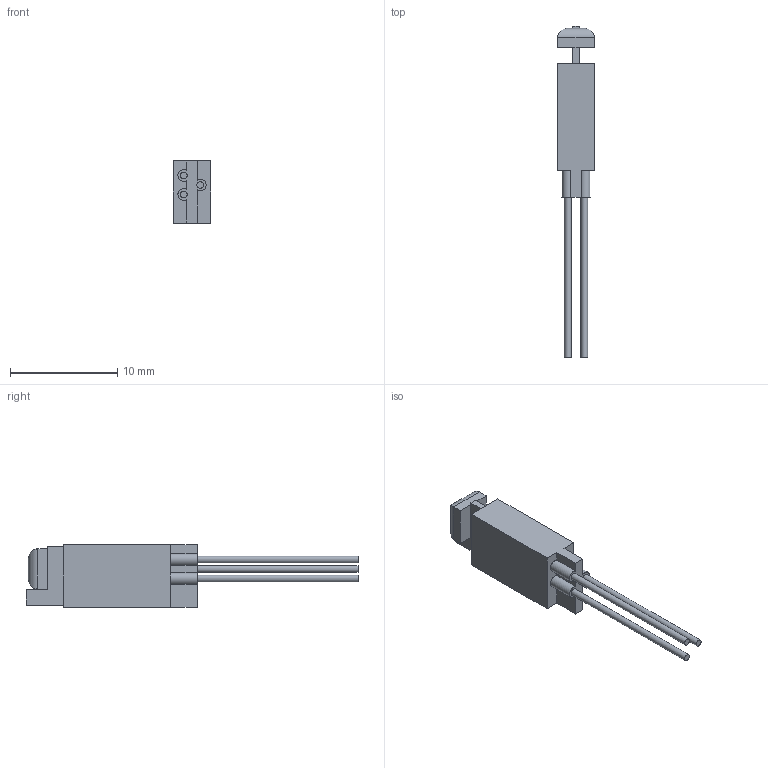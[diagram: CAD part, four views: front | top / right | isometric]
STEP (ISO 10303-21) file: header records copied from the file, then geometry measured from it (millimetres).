
FILE_DESCRIPTION(/* description */ (''),/* implementation_level */ '2;1');
FILE_NAME(/* name */ 'C:/Users/sorto/Downloads/MegaFINN.step',/* time_stamp */ '2020-10-08T15:20:40-05:00',/* author */ (''),/* organization */ (''),/* preprocessor_version */ 'ST-DEVELOPER v18.1',/* originating_system */ 'Autodesk Translation Framework v9.3.0.1241',/* authorisation */ '');
FILE_SCHEMA (('AUTOMOTIVE_DESIGN { 1 0 10303 214 3 1 1 }'));
Length unit declared in the file: millimetre
Products named in the file (1): MF_sensor
Bounding box: 3.5 x 31 x 5.8 mm (x, y, z)
Volume: 264.5 mm3; surface area: 441.3 mm2
Topology: 6 solids, 6 shells, 48 faces, 101 edges, 66 vertices
Faces by surface type: plane 38, cylinder 10
Full cylindrical faces by diameter (mm): 0.635 x3
Entity records: 1312 total; most frequent: CARTESIAN_POINT 216, DIRECTION 215, ORIENTED_EDGE 202, EDGE_CURVE 101, LINE 85, VECTOR 85, VERTEX_POINT 66, AXIS2_PLACEMENT_3D 65
